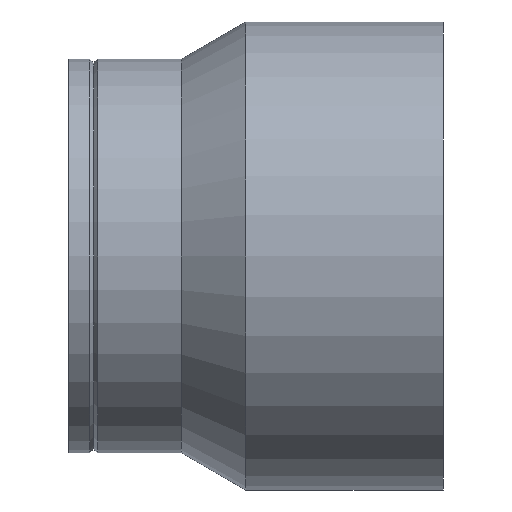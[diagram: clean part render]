
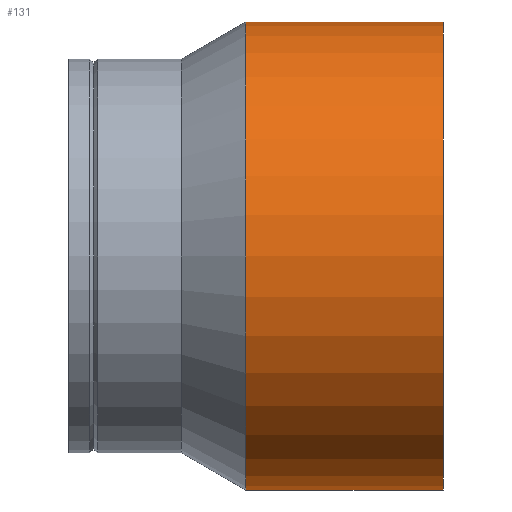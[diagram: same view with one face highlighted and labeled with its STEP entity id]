
A CAD part, front view. The second image highlights one B-rep face of the part: STEP entity #131.
In plain terms, the highlighted cylindrical face has radius 187.3 mm (diameter 374.6 mm), a full revolution.
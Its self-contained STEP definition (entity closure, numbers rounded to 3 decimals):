
#18=CYLINDRICAL_SURFACE($,#154,187.3);
#28=FACE_BOUND($,#59,.T.);
#40=FACE_OUTER_BOUND($,#58,.T.);
#58=EDGE_LOOP($,(#113));
#59=EDGE_LOOP($,(#114));
#72=CIRCLE($,#153,187.3);
#73=CIRCLE($,#155,187.3);
#83=VERTEX_POINT($,#230);
#84=VERTEX_POINT($,#233);
#94=EDGE_CURVE($,#83,#83,#72,.T.);
#95=EDGE_CURVE($,#84,#84,#73,.T.);
#113=ORIENTED_EDGE($,*,*,#95,.F.);
#114=ORIENTED_EDGE($,*,*,#94,.T.);
#131=ADVANCED_FACE($,(#40,#28),#18,.T.);
#153=AXIS2_PLACEMENT_3D($,#231,#193,#194);
#154=AXIS2_PLACEMENT_3D($,#232,#195,#196);
#155=AXIS2_PLACEMENT_3D($,#234,#197,#198);
#193=DIRECTION('center_axis',(1.,0.,0.));
#194=DIRECTION('ref_axis',(0.,1.,0.));
#195=DIRECTION('center_axis',(1.,0.,0.));
#196=DIRECTION('ref_axis',(0.,1.,0.));
#197=DIRECTION('center_axis',(1.,0.,0.));
#198=DIRECTION('ref_axis',(0.,1.,0.));
#230=CARTESIAN_POINT('',(141.615,187.3,0.));
#231=CARTESIAN_POINT('Origin',(141.615,0.,0.));
#232=CARTESIAN_POINT('Origin',(220.808,0.,0.));
#233=CARTESIAN_POINT('',(300.,187.3,0.));
#234=CARTESIAN_POINT('Origin',(300.,0.,0.));
